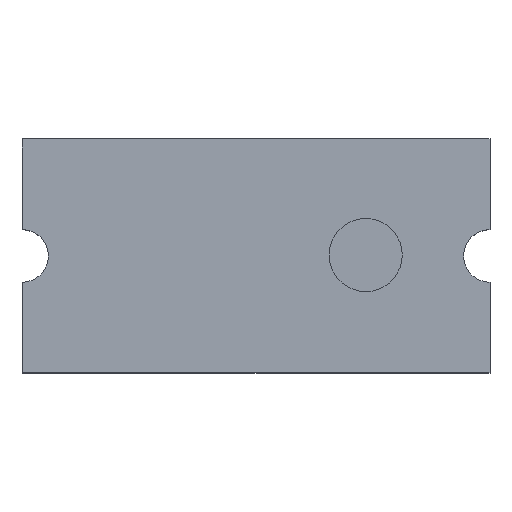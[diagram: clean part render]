
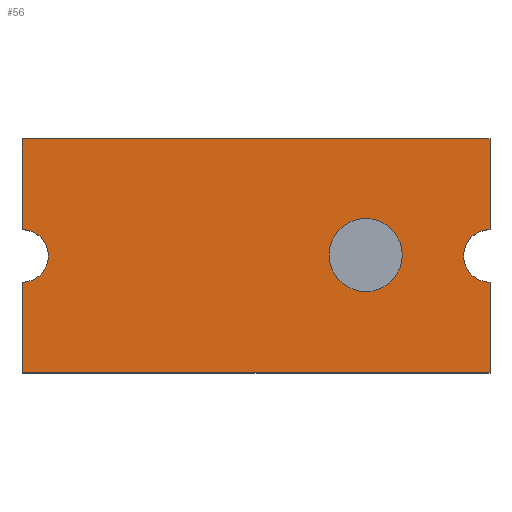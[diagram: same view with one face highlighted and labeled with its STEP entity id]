
A CAD part, top view. The second image highlights one B-rep face of the part: STEP entity #56.
In plain terms, the highlighted planar face has unit normal (0, 0, 1).
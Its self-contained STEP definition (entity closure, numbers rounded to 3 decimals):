
#56=ADVANCED_FACE('',(#85,#86),#87,.T.);
#85=FACE_OUTER_BOUND('',#132,.T.);
#86=FACE_BOUND('',#133,.T.);
#87=PLANE('',#134);
#132=EDGE_LOOP('',(#208,#209,#210,#211,#212,#213,#214,#215,#216,#217));
#133=EDGE_LOOP('',(#218,#219));
#134=AXIS2_PLACEMENT_3D('',#220,#221,#222);
#208=ORIENTED_EDGE('',*,*,#376,.F.);
#209=ORIENTED_EDGE('',*,*,#377,.F.);
#210=ORIENTED_EDGE('',*,*,#378,.F.);
#211=ORIENTED_EDGE('',*,*,#379,.F.);
#212=ORIENTED_EDGE('',*,*,#361,.F.);
#213=ORIENTED_EDGE('',*,*,#380,.F.);
#214=ORIENTED_EDGE('',*,*,#381,.F.);
#215=ORIENTED_EDGE('',*,*,#382,.F.);
#216=ORIENTED_EDGE('',*,*,#367,.F.);
#217=ORIENTED_EDGE('',*,*,#383,.F.);
#218=ORIENTED_EDGE('',*,*,#384,.F.);
#219=ORIENTED_EDGE('',*,*,#385,.F.);
#220=CARTESIAN_POINT('',(0.06,0.9,0.506));
#221=DIRECTION('',(0.0,0.0,1.0));
#222=DIRECTION('',(1.0,0.0,0.0));
#361=EDGE_CURVE('',#425,#427,#428,.F.);
#367=EDGE_CURVE('',#437,#439,#440,.F.);
#376=EDGE_CURVE('',#454,#455,#456,.T.);
#377=EDGE_CURVE('',#457,#454,#458,.T.);
#378=EDGE_CURVE('',#459,#457,#460,.T.);
#379=EDGE_CURVE('',#427,#459,#461,.F.);
#380=EDGE_CURVE('',#462,#425,#463,.T.);
#381=EDGE_CURVE('',#464,#462,#465,.T.);
#382=EDGE_CURVE('',#439,#464,#466,.T.);
#383=EDGE_CURVE('',#455,#437,#467,.F.);
#384=EDGE_CURVE('',#468,#469,#470,.T.);
#385=EDGE_CURVE('',#469,#468,#471,.T.);
#425=VERTEX_POINT('',#530);
#427=VERTEX_POINT('',#533);
#428=CIRCLE('',#534,0.18);
#437=VERTEX_POINT('',#547);
#439=VERTEX_POINT('',#550);
#440=CIRCLE('',#551,0.18);
#454=VERTEX_POINT('',#568);
#455=VERTEX_POINT('',#569);
#456=LINE('',#570,#571);
#457=VERTEX_POINT('',#572);
#458=LINE('',#573,#574);
#459=VERTEX_POINT('',#575);
#460=LINE('',#576,#577);
#461=CIRCLE('',#578,0.18);
#462=VERTEX_POINT('',#579);
#463=LINE('',#580,#581);
#464=VERTEX_POINT('',#582);
#465=LINE('',#583,#584);
#466=LINE('',#585,#586);
#467=CIRCLE('',#587,0.18);
#468=VERTEX_POINT('',#588);
#469=VERTEX_POINT('',#589);
#470=CIRCLE('',#590,0.25);
#471=CIRCLE('',#591,0.25);
#530=CARTESIAN_POINT('',(0.06,0.72,0.506));
#533=CARTESIAN_POINT('',(0.24,0.9,0.506));
#534=AXIS2_PLACEMENT_3D('',#671,#672,#673);
#547=CARTESIAN_POINT('',(3.08,0.9,0.506));
#550=CARTESIAN_POINT('',(3.26,0.72,0.506));
#551=AXIS2_PLACEMENT_3D('',#679,#680,#681);
#568=CARTESIAN_POINT('',(3.26,1.7,0.506));
#569=CARTESIAN_POINT('',(3.26,1.08,0.506));
#570=CARTESIAN_POINT('',(3.26,1.7,0.506));
#571=VECTOR('',#700,1.0);
#572=CARTESIAN_POINT('',(0.06,1.7,0.506));
#573=CARTESIAN_POINT('',(0.06,1.7,0.506));
#574=VECTOR('',#701,1.0);
#575=CARTESIAN_POINT('',(0.06,1.08,0.506));
#576=CARTESIAN_POINT('',(0.06,1.19,0.506));
#577=VECTOR('',#702,1.0);
#578=AXIS2_PLACEMENT_3D('',#703,#704,#705);
#579=CARTESIAN_POINT('',(0.06,0.1,0.506));
#580=CARTESIAN_POINT('',(0.06,0.1,0.506));
#581=VECTOR('',#706,1.0);
#582=CARTESIAN_POINT('',(3.26,0.1,0.506));
#583=CARTESIAN_POINT('',(3.26,0.1,0.506));
#584=VECTOR('',#707,1.0);
#585=CARTESIAN_POINT('',(3.26,0.61,0.506));
#586=VECTOR('',#708,1.0);
#587=AXIS2_PLACEMENT_3D('',#709,#710,#711);
#588=CARTESIAN_POINT('',(2.66,0.906,0.506));
#589=CARTESIAN_POINT('',(2.16,0.906,0.506));
#590=AXIS2_PLACEMENT_3D('',#712,#713,#714);
#591=AXIS2_PLACEMENT_3D('',#715,#716,#717);
#671=CARTESIAN_POINT('',(0.06,0.9,0.506));
#672=DIRECTION('',(0.0,0.0,-1.0));
#673=DIRECTION('',(-1.0,0.0,0.0));
#679=CARTESIAN_POINT('',(3.26,0.9,0.506));
#680=DIRECTION('',(0.0,0.0,-1.0));
#681=DIRECTION('',(-1.0,0.0,0.0));
#700=DIRECTION('',(0.0,-1.0,0.0));
#701=DIRECTION('',(1.0,0.0,0.0));
#702=DIRECTION('',(0.0,1.0,0.0));
#703=CARTESIAN_POINT('',(0.06,0.9,0.506));
#704=DIRECTION('',(0.0,0.0,-1.0));
#705=DIRECTION('',(-1.0,0.0,0.0));
#706=DIRECTION('',(0.0,1.0,0.0));
#707=DIRECTION('',(-1.0,0.0,0.0));
#708=DIRECTION('',(0.0,-1.0,0.0));
#709=CARTESIAN_POINT('',(3.26,0.9,0.506));
#710=DIRECTION('',(0.0,0.0,-1.0));
#711=DIRECTION('',(-1.0,0.0,0.0));
#712=CARTESIAN_POINT('',(2.41,0.906,0.506));
#713=DIRECTION('',(0.0,0.0,1.0));
#714=DIRECTION('',(-1.0,0.0,0.0));
#715=CARTESIAN_POINT('',(2.41,0.906,0.506));
#716=DIRECTION('',(0.0,0.0,1.0));
#717=DIRECTION('',(-1.0,0.0,0.0));
